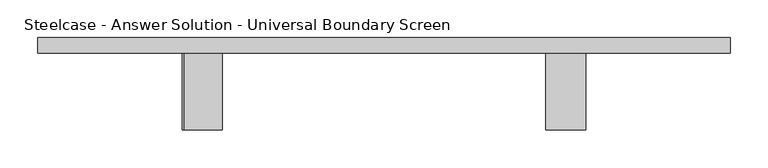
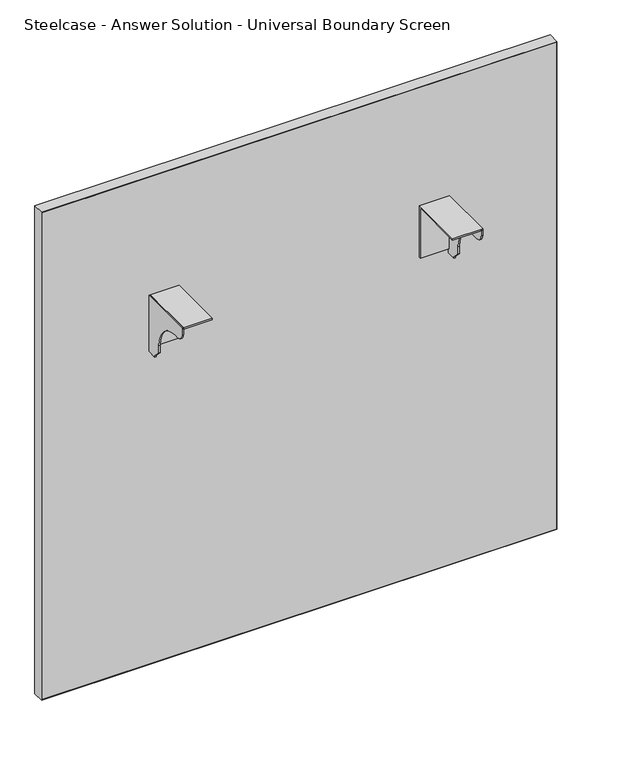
"""IFC4 building model written with IfcOpenShell, lengths in millimetres: furniture geometry, Steelcase - Answer Solution - Universal Boundary Screen : 36H x 36W."""

from ifc_helpers import new_model, si_unit, point, frame, frame_2d, origin, place, context, project, spatial, polyline, circle_curve, trimmed, segment, composite_curve, outline, extrude, source, transform, mapped, element, save


def steelcase_answer_solution_universal_boundary_screen_e25b3937(model_context):
    return source(origin(), model_context, "Body", "SweptSolid", [
        extrude(outline(polyline([(-103.1670434, 689.3558876), (-103.1670434, 692.1499758), (-1.5668826, 692.1499758), (-1.5668826, 595.5029317), (-4.1079736, 595.5029317), (-4.1079736, 689.3558876), (-103.1670434, 689.3558876)])), frame((743.4336711, 0.0, 0.0), z_axis=(1.0, 0.0, 0.0), x_axis=(0.0, 1.0, 0.0)), (0.0, 0.0, 1.0), 53.3444116),
        extrude(outline(composite_curve([segment(polyline([(-103.1670434, 679.2814802), (-103.1670434, 692.1499758), (-1.5668826, 692.1499758), (-1.5668826, 586.9634093), (-19.8232934, 586.9634093), (-19.8232934, 589.7574248), (-32.0458032, 601.9799346), (-32.0458032, 615.7814802)]), True, "CONTINUOUS"), segment(trimmed(circle_curve(frame_2d((-82.8458032, 615.7814802)), 50.8), [point((-32.0458032, 615.7814802))], [point((-82.8458032, 666.5814802))], True, "CARTESIAN"), True, "CONTINUOUS"), segment(polyline([(-82.8458032, 666.5814802), (-90.4670434, 666.5814802)]), True, "CONTINUOUS"), segment(trimmed(circle_curve(frame_2d((-90.4670434, 679.2814802)), 12.7), [point((-90.4670434, 666.5814802))], [point((-103.1670434, 679.2814802))], False, "CARTESIAN"), True, "CONTINUOUS")], self_intersect=False)), frame((794.2328959, 0.0, 0.0), z_axis=(1.0, 0.0, 0.0), x_axis=(0.0, 1.0, 0.0)), (0.0, 0.0, 1.0), 2.5451868),
        extrude(outline(polyline([(-103.1670434, 689.3558876), (-103.1670434, 692.1499758), (-1.5668826, 692.1499758), (-1.5668826, 595.5029317), (-4.1079736, 595.5029317), (-4.1079736, 689.3558876), (-103.1670434, 689.3558876)])), frame((265.9232694, 0.0, 0.0), z_axis=(1.0, 0.0, 0.0), x_axis=(0.0, 1.0, 0.0)), (0.0, 0.0, 1.0), 50.7992249),
        extrude(outline(composite_curve([segment(polyline([(-103.1670434, 679.2814802), (-103.1670434, 692.1499758), (-1.5668826, 692.1499758), (-1.5668826, 586.9634093), (-19.8232934, 586.9634093), (-19.8232934, 589.7574248), (-32.0458032, 601.9799346), (-32.0458032, 615.7814802)]), True, "CONTINUOUS"), segment(trimmed(circle_curve(frame_2d((-82.8458032, 615.7814802)), 50.8), [point((-32.0458032, 615.7814802))], [point((-82.8458032, 666.5814802))], True, "CARTESIAN"), True, "CONTINUOUS"), segment(polyline([(-82.8458032, 666.5814802), (-90.4670434, 666.5814802)]), True, "CONTINUOUS"), segment(trimmed(circle_curve(frame_2d((-90.4670434, 679.2814802)), 12.7), [point((-90.4670434, 666.5814802))], [point((-103.1670434, 679.2814802))], False, "CARTESIAN"), True, "CONTINUOUS")], self_intersect=False)), frame((263.3780827, 0.0, 0.0), z_axis=(1.0, 0.0, 0.0), x_axis=(0.0, 1.0, 0.0)), (0.0, 0.0, 1.0), 2.5451868),
        extrude(outline(polyline([(73.8706578, 18.9055112), (986.2855076, 18.9055112), (986.2855076, -1.5668826), (73.8706578, -1.5668826), (73.8706578, 18.9055112)])), frame((0.0, 0.0, 1.016), z_axis=(0.0, 0.0, 1.0), x_axis=(1.0, 0.0, 0.0)), (0.0, 0.0, 1.0), 912.3914249),
        extrude(outline(polyline([(914.4, 987.2780827), (914.4, 72.8780827), (0.0, 72.8780827), (0.0, 987.2780827), (914.4, 987.2780827)]), holes=[polyline([(913.4074249, 986.2855076), (1.016, 986.2855076), (1.016, 73.8706578), (913.4074249, 73.8706578), (913.4074249, 986.2855076)])]), frame((0.0, -1.5668826, 0.0), z_axis=(0.0, 1.0, 0.0), x_axis=(0.0, 0.0, 1.0)), (0.0, 0.0, 1.0), 20.4723938),
    ])


if __name__ == "__main__":
    model = new_model("IFC4")
    model_context = context("Model", 3, world=origin())
    ifc_project = project(units=[si_unit("LENGTHUNIT", "METRE", prefix="MILLI")], contexts=[model_context])
    site = spatial("IfcSite", under=ifc_project)
    building = spatial("IfcBuilding", under=site)
    placement = place(None, origin())
    steelcase_answer_solution_universal_boundary_screen_shape = steelcase_answer_solution_universal_boundary_screen_e25b3937(model_context)
    element("IfcFurniture", 1, ObjectType="Steelcase - Answer Solution - Universal Boundary Screen : 36H x 36W", at=placement, inside=building, context=model_context, shape_type="MappedRepresentation", body=[
        mapped(steelcase_answer_solution_universal_boundary_screen_shape, transform((0.0, 0.0, 0.0), x_axis=(1.0, 0.0, 0.0), y_axis=(0.0, 1.0, 0.0), z_axis=(0.0, 0.0, 1.0))),
    ])
    save(model, "model.ifc")
